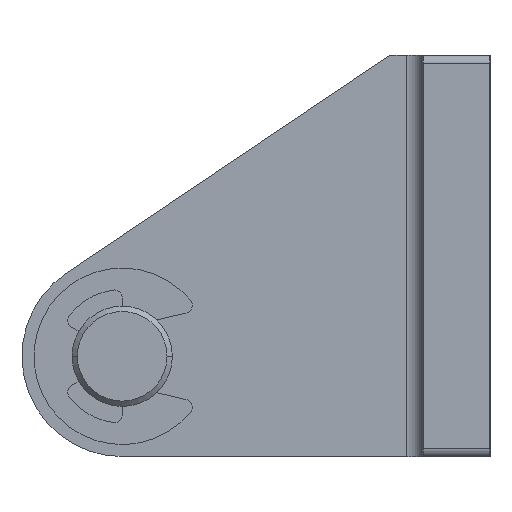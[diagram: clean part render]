
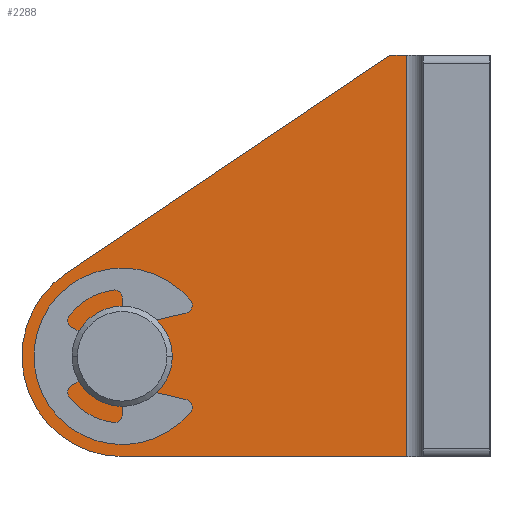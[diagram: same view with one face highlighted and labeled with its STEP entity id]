
A CAD part, left-side view. The second image highlights one B-rep face of the part: STEP entity #2288.
In plain terms, the highlighted planar face has unit normal (-1, 0, 0) as drawn and (1, 0, 0) by its records, which use the part's own axes.
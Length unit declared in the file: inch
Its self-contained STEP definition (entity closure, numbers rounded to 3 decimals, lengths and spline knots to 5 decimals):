
#1738=CARTESIAN_POINT('',(0.25,0.,0.));
#1739=DIRECTION('',(1.,0.,0.));
#1740=DIRECTION('',(0.,0.,1.));
#1741=AXIS2_PLACEMENT_3D('',#1738,#1739,#1740);
#1746=CARTESIAN_POINT('',(0.25,0.,0.));
#1747=DIRECTION('',(1.,0.,0.));
#1748=DIRECTION('',(0.,0.,-1.));
#1749=AXIS2_PLACEMENT_3D('',#1746,#1747,#1748);
#1754=DIRECTION('',(0.,0.,-1.));
#1755=VECTOR('',#1754,1.5);
#1756=CARTESIAN_POINT('',(0.25,-1.0625,0.375));
#1757=LINE('',#1756,#1755);
#1761=DIRECTION('',(0.,1.,0.));
#1762=VECTOR('',#1761,1.0625);
#1763=CARTESIAN_POINT('',(0.25,-1.0625,0.375));
#1764=LINE('',#1763,#1762);
#1768=CARTESIAN_POINT('',(0.25,0.,0.));
#1769=DIRECTION('',(-1.,0.,0.));
#1770=DIRECTION('',(0.,0.,1.));
#1771=AXIS2_PLACEMENT_3D('',#1768,#1769,#1770);
#1776=DIRECTION('',(0.,-0.83,-0.558));
#1777=VECTOR('',#1776,1.45774);
#1778=CARTESIAN_POINT('',(0.25,0.20937,-0.31111));
#1779=LINE('',#1778,#1777);
#1783=DIRECTION('',(0.,-1.,0.));
#1784=VECTOR('',#1783,0.0625);
#1785=CARTESIAN_POINT('',(0.25,-1.,-1.125));
#1786=LINE('',#1785,#1784);
#2141=CARTESIAN_POINT('',(0.25,0.,0.1875));
#2142=CARTESIAN_POINT('',(0.25,0.,-0.1875));
#2143=VERTEX_POINT('',#2141);
#2144=VERTEX_POINT('',#2142);
#2145=CARTESIAN_POINT('',(0.25,0.,0.375));
#2146=CARTESIAN_POINT('',(0.25,0.20937,-0.31111));
#2147=VERTEX_POINT('',#2145);
#2148=VERTEX_POINT('',#2146);
#2149=CARTESIAN_POINT('',(0.25,-1.,-1.125));
#2150=VERTEX_POINT('',#2149);
#2199=CARTESIAN_POINT('',(0.25,-1.0625,0.375));
#2200=CARTESIAN_POINT('',(0.25,-1.0625,-1.125));
#2201=VERTEX_POINT('',#2199);
#2202=VERTEX_POINT('',#2200);
#2267=CARTESIAN_POINT('',(0.25,0.,0.));
#2268=DIRECTION('',(-1.,0.,0.));
#2269=DIRECTION('',(0.,0.,1.));
#2270=AXIS2_PLACEMENT_3D('',#2267,#2268,#2269);
#2271=PLANE('',#2270);
#2273=ORIENTED_EDGE('',*,*,#2272,.F.);
#2275=ORIENTED_EDGE('',*,*,#2274,.T.);
#2277=ORIENTED_EDGE('',*,*,#2276,.T.);
#2279=ORIENTED_EDGE('',*,*,#2278,.T.);
#2281=ORIENTED_EDGE('',*,*,#2280,.T.);
#2282=EDGE_LOOP('',(#2273,#2275,#2277,#2279,#2281));
#2283=FACE_OUTER_BOUND('',#2282,.F.);
#2284=ORIENTED_EDGE('',*,*,#2247,.T.);
#2285=ORIENTED_EDGE('',*,*,#2261,.T.);
#2286=EDGE_LOOP('',(#2284,#2285));
#2287=FACE_BOUND('',#2286,.F.);
#2288=ADVANCED_FACE('',(#2283,#2287),#2271,.F.);
#1742=CIRCLE('',#1741,0.1875);
#1750=CIRCLE('',#1749,0.1875);
#1772=CIRCLE('',#1771,0.375);
#2247=EDGE_CURVE('',#2143,#2144,#1742,.T.);
#2261=EDGE_CURVE('',#2144,#2143,#1750,.T.);
#2272=EDGE_CURVE('',#2201,#2202,#1757,.T.);
#2274=EDGE_CURVE('',#2201,#2147,#1764,.T.);
#2276=EDGE_CURVE('',#2147,#2148,#1772,.T.);
#2278=EDGE_CURVE('',#2148,#2150,#1779,.T.);
#2280=EDGE_CURVE('',#2150,#2202,#1786,.T.);
